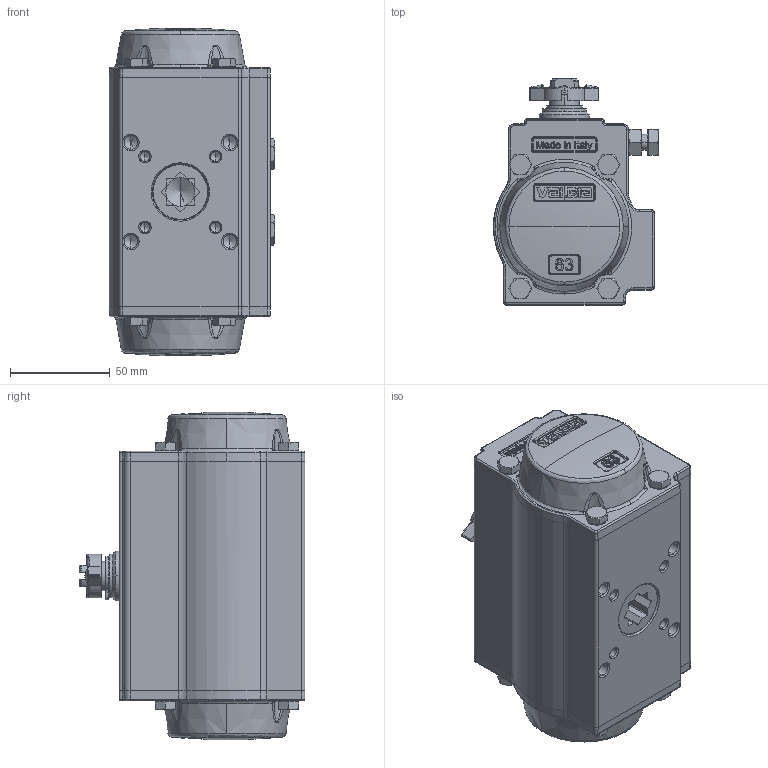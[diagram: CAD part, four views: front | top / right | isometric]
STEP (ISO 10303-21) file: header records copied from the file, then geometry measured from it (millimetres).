
FILE_DESCRIPTION (( 'STEP AP214' ), '1' );
FILE_NAME ('ASSIEME DA SR 63 S82.STEP', '2012-11-29T08:38:32', ( 'PC01TECNICO' ), ( 'Valbia' ), 'SwSTEP 2.0', 'SolidWorks 2010', '' );
FILE_SCHEMA (( 'AUTOMOTIVE_DESIGN' ));
Length unit declared in the file: millimetre
Products named in the file (1): ASSIEME DA SR 63 S82
Bounding box: 82.67 x 113 x 163.98 mm (x, y, z)
Volume: 902864.9 mm3; surface area: 69566.3 mm2
Topology: 1 solids, 1 shells, 1582 faces, 4130 edges, 2565 vertices
Faces by surface type: plane 582, bspline 533, cylinder 232, cone 219, torus 16
Entity records: 88682 total; most frequent: CARTESIAN_POINT 48785, ORIENTED_EDGE 8140, DIRECTION 4535, EDGE_CURVE 4070, VERTEX_POINT 2565, B_SPLINE_CURVE_WITH_KNOTS 1913, EDGE_LOOP 1683, FACE_OUTER_BOUND 1582
